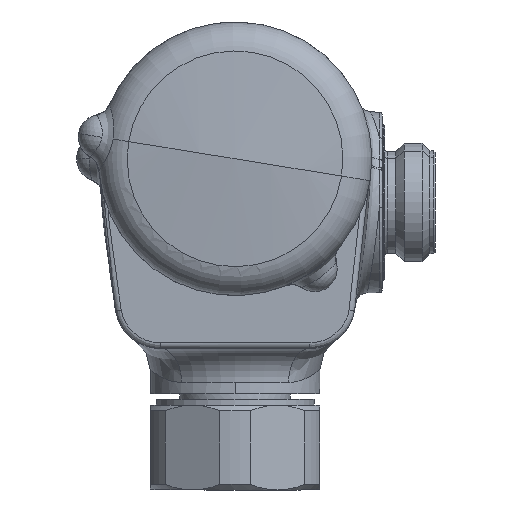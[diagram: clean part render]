
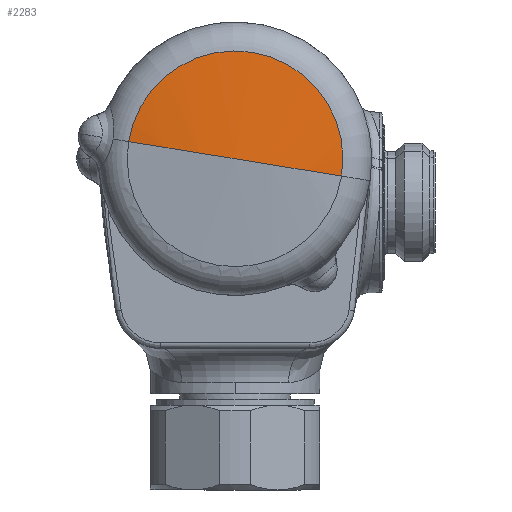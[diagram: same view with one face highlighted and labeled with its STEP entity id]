
A CAD part, left-side view. The second image highlights one B-rep face of the part: STEP entity #2283.
In plain terms, the highlighted spherical face has radius 130 mm.
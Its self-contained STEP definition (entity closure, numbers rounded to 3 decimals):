
#904 = FACE_OUTER_BOUND ( 'NONE', #9141, .T. ) ;
#1000 = CIRCLE ( 'NONE', #1537, 19.051 ) ;
#1537 = AXIS2_PLACEMENT_3D ( 'NONE', #9862, #4385, #5338 ) ;
#2283 = ADVANCED_FACE ( 'NONE', ( #904 ), #2750, .T. ) ;
#2332 = CARTESIAN_POINT ( 'NONE',  ( -179.284, 210.743, 378.902 ) ) ;
#2564 = DIRECTION ( 'NONE',  ( 0., 0.16, -0.987 ) ) ;
#2692 = DIRECTION ( 'NONE',  ( 0., -0.16, 0.987 ) ) ;
#2750 = SPHERICAL_SURFACE ( 'NONE', #4275, 130. ) ;
#2903 = CIRCLE ( 'NONE', #8997, 130. ) ;
#3380 = CIRCLE ( 'NONE', #10583, 130. ) ;
#3477 = DIRECTION ( 'NONE',  ( 0., 0.987, 0.16 ) ) ;
#3809 = ORIENTED_EDGE ( 'NONE', *, *, #7827, .F. ) ;
#4102 = ORIENTED_EDGE ( 'NONE', *, *, #7147, .T. ) ;
#4275 = AXIS2_PLACEMENT_3D ( 'NONE', #6979, #7880, #11569 ) ;
#4385 = DIRECTION ( 'NONE',  ( -1., 0., 0. ) ) ;
#4428 = DIRECTION ( 'NONE',  ( 0., -0.987, -0.16 ) ) ;
#4840 = CARTESIAN_POINT ( 'NONE',  ( -179.284, 173.131, 372.81 ) ) ;
#5054 = VERTEX_POINT ( 'NONE', #7668 ) ;
#5338 = DIRECTION ( 'NONE',  ( 0., -0.987, -0.16 ) ) ;
#5616 = VERTEX_POINT ( 'NONE', #4840 ) ;
#6006 = CARTESIAN_POINT ( 'NONE',  ( -50.688, 191.937, 375.856 ) ) ;
#6979 = CARTESIAN_POINT ( 'NONE',  ( -50.688, 191.937, 375.856 ) ) ;
#7147 = EDGE_CURVE ( 'NONE', #5616, #11087, #1000, .T. ) ;
#7668 = CARTESIAN_POINT ( 'NONE',  ( -180.688, 191.937, 375.856 ) ) ;
#7827 = EDGE_CURVE ( 'NONE', #5054, #11087, #2903, .T. ) ;
#7880 = DIRECTION ( 'NONE',  ( 0., 0.16, -0.987 ) ) ;
#8064 = CARTESIAN_POINT ( 'NONE',  ( -50.688, 191.937, 375.856 ) ) ;
#8615 = ORIENTED_EDGE ( 'NONE', *, *, #10633, .T. ) ;
#8997 = AXIS2_PLACEMENT_3D ( 'NONE', #6006, #2564, #3477 ) ;
#9141 = EDGE_LOOP ( 'NONE', ( #3809, #8615, #4102 ) ) ;
#9862 = CARTESIAN_POINT ( 'NONE',  ( -179.284, 191.937, 375.856 ) ) ;
#10583 = AXIS2_PLACEMENT_3D ( 'NONE', #8064, #2692, #4428 ) ;
#10633 = EDGE_CURVE ( 'NONE', #5054, #5616, #3380, .T. ) ;
#11087 = VERTEX_POINT ( 'NONE', #2332 ) ;
#11569 = DIRECTION ( 'NONE',  ( 0., -0.987, -0.16 ) ) ;
